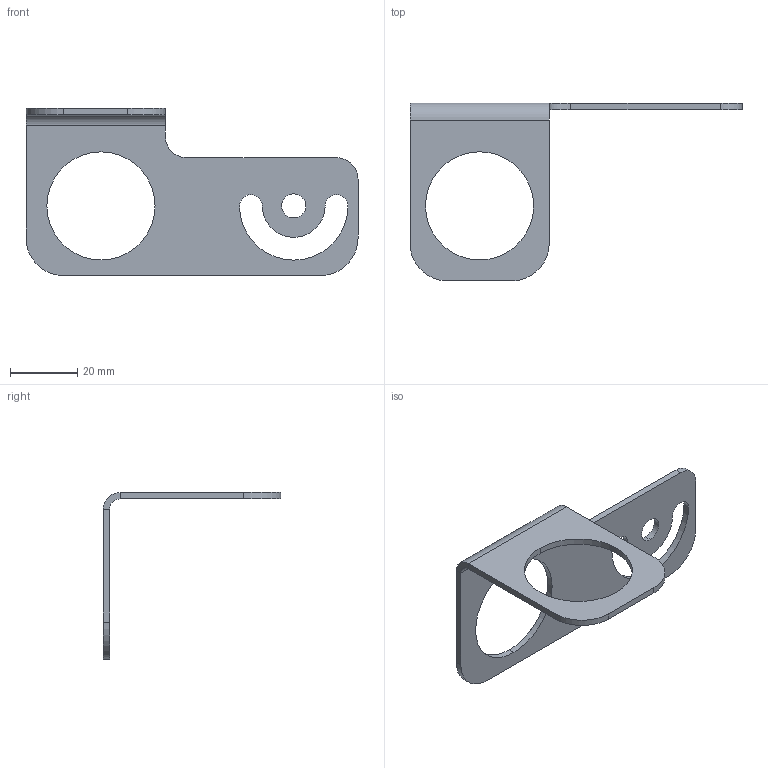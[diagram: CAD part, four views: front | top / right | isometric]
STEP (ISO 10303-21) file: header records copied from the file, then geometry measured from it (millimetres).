
FILE_DESCRIPTION (( 'STEP AP214' ), '1' );
FILE_NAME ('AFSB-SB-30.STEP', '2018-11-05T21:25:03', ( '' ), ( '' ), 'SwSTEP 2.0', 'SolidWorks 2018', '' );
FILE_SCHEMA (( 'AUTOMOTIVE_DESIGN' ));
Length unit declared in the file: inch
Products named in the file (2): AFSB-SB-30
Bounding box: 98.42 x 52.7 x 49.52 mm (x, y, z)
Volume: 7583.7 mm3; surface area: 9311.3 mm2
Topology: 1 solids, 1 shells, 113 faces, 1112 edges, 1080 vertices
Faces by surface type: plane 93, cylinder 20
Entity records: 12108 total; most frequent: CARTESIAN_POINT 3333, ORIENTED_EDGE 2224, DIRECTION 1332, EDGE_CURVE 1112, VERTEX_POINT 1080, VECTOR 980, LINE 980, EDGE_LOOP 200
